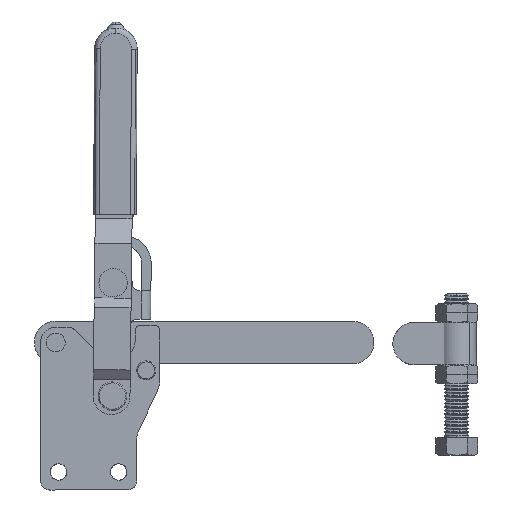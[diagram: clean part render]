
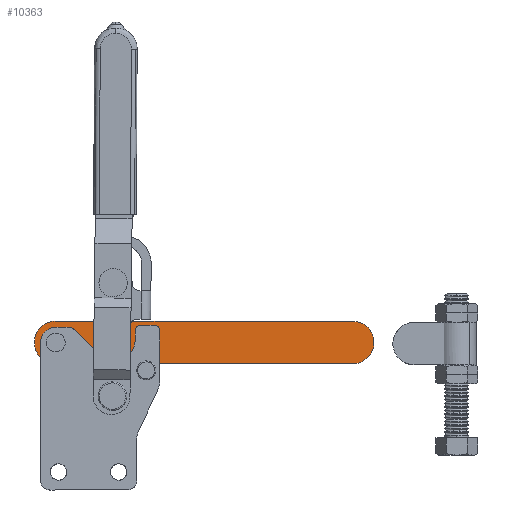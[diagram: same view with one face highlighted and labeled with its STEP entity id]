
A CAD part, left-side view. The second image highlights one B-rep face of the part: STEP entity #10363.
In plain terms, the highlighted free-form (B-spline) face has degree [1, 1] with [2, 2] control points.
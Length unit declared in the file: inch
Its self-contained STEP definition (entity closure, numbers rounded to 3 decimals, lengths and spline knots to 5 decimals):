
#4027=EDGE_CURVE('',#5243,#7851,#11529,.T.);
#4220=VERTEX_POINT('',#11742);
#5039=EDGE_CURVE('',#4220,#5820,#12625,.T.);
#5243=VERTEX_POINT('',#12848);
#5263=EDGE_CURVE('',#7772,#6252,#12872,.T.);
#5684=VERTEX_POINT('',#13333);
#5820=VERTEX_POINT('',#13477);
#6252=VERTEX_POINT('',#13944);
#6386=VERTEX_POINT('',#14087);
#6953=EDGE_CURVE('',#5820,#4220,#14697,.T.);
#7772=VERTEX_POINT('',#15595);
#7851=VERTEX_POINT('',#15682);
#7988=VERTEX_POINT('',#15826);
#8063=EDGE_CURVE('',#5684,#7772,#15906,.T.);
#8338=VERTEX_POINT('',#16198);
#8693=EDGE_CURVE('',#7851,#5243,#16586,.T.);
#8786=EDGE_CURVE('',#8338,#6386,#16682,.T.);
#9217=EDGE_CURVE('',#6252,#7988,#17153,.T.);
#10363=ADVANCED_FACE('',(#18396,#18397,#18398),#18399,.T.);
#10440=EDGE_CURVE('',#7988,#8338,#18486,.T.);
#10894=EDGE_CURVE('',#6386,#5684,#18986,.T.);
#11529=(B_SPLINE_CURVE(3,(#21167,#21168,#21169,#21170),.UNSPECIFIED.,.F.,.F.)B_SPLINE_CURVE_WITH_KNOTS((4,4),(-6.28319,-3.14159),.UNSPECIFIED.)RATIONAL_B_SPLINE_CURVE((1.0,0.333,0.333,1.0))BOUNDED_CURVE()REPRESENTATION_ITEM('')GEOMETRIC_REPRESENTATION_ITEM()CURVE());
#11742=CARTESIAN_POINT('',(-0.17717,-0.5512,2.31688));
#12625=(B_SPLINE_CURVE(3,(#27021,#27022,#27023,#27024),.UNSPECIFIED.,.F.,.F.)B_SPLINE_CURVE_WITH_KNOTS((4,4),(-3.14159,0.0),.UNSPECIFIED.)RATIONAL_B_SPLINE_CURVE((1.0,0.333,0.333,1.0))BOUNDED_CURVE()REPRESENTATION_ITEM('')GEOMETRIC_REPRESENTATION_ITEM()CURVE());
#12848=CARTESIAN_POINT('',(-0.17717,-1.25987,2.364));
#12872=(B_SPLINE_CURVE(3,(#28340,#28341,#28342,#28343),.UNSPECIFIED.,.F.,.F.)B_SPLINE_CURVE_WITH_KNOTS((4,4),(1.5708,3.14159),.UNSPECIFIED.)RATIONAL_B_SPLINE_CURVE((1.0,0.667,0.5,0.5))BOUNDED_CURVE()REPRESENTATION_ITEM('')GEOMETRIC_REPRESENTATION_ITEM()CURVE());
#13333=CARTESIAN_POINT('',(-0.17717,-6.49404,1.87297));
#13477=CARTESIAN_POINT('',(-0.17717,-0.07876,2.31696));
#13944=CARTESIAN_POINT('',(-0.17717,0.12794,2.31699));
#14087=CARTESIAN_POINT('',(-0.17717,-6.93702,2.3158));
#14697=(B_SPLINE_CURVE(3,(#36985,#36986,#36987,#36988),.UNSPECIFIED.,.F.,.F.)B_SPLINE_CURVE_WITH_KNOTS((4,4),(-6.28319,-3.14159),.UNSPECIFIED.)RATIONAL_B_SPLINE_CURVE((1.0,0.333,0.333,1.0))BOUNDED_CURVE()REPRESENTATION_ITEM('')GEOMETRIC_REPRESENTATION_ITEM()CURVE());
#15595=CARTESIAN_POINT('',(-0.17717,-0.3149,1.87401));
#15682=CARTESIAN_POINT('',(-0.17717,-1.73231,2.36392));
#15826=CARTESIAN_POINT('',(-0.17717,-0.31505,2.75983));
#15906=B_SPLINE_CURVE_WITH_KNOTS('',1,(#42428,#42429),.UNSPECIFIED.,.F.,.F.,(2,2),(-0.15695,0.0),.UNSPECIFIED.);
#16198=CARTESIAN_POINT('',(-0.17717,-6.49419,2.75879));
#16586=(B_SPLINE_CURVE(3,(#45403,#45404,#45405,#45406),.UNSPECIFIED.,.F.,.F.)B_SPLINE_CURVE_WITH_KNOTS((4,4),(-3.14159,0.0),.UNSPECIFIED.)RATIONAL_B_SPLINE_CURVE((1.0,0.333,0.333,1.0))BOUNDED_CURVE()REPRESENTATION_ITEM('')GEOMETRIC_REPRESENTATION_ITEM()CURVE());
#16682=(B_SPLINE_CURVE(3,(#45805,#45806,#45807,#45808),.UNSPECIFIED.,.F.,.F.)B_SPLINE_CURVE_WITH_KNOTS((4,4),(1.5708,3.14159),.UNSPECIFIED.)RATIONAL_B_SPLINE_CURVE((1.0,0.805,0.805,1.0))BOUNDED_CURVE()REPRESENTATION_ITEM('')GEOMETRIC_REPRESENTATION_ITEM()CURVE());
#17153=(B_SPLINE_CURVE(3,(#47662,#47663,#47664,#47665),.UNSPECIFIED.,.F.,.F.)B_SPLINE_CURVE_WITH_KNOTS((4,4),(3.14159,4.71239),.UNSPECIFIED.)RATIONAL_B_SPLINE_CURVE((0.5,0.5,0.667,1.0))BOUNDED_CURVE()REPRESENTATION_ITEM('')GEOMETRIC_REPRESENTATION_ITEM()CURVE());
#18396=FACE_OUTER_BOUND('',#52651,.T.);
#18397=FACE_BOUND('',#52652,.T.);
#18398=FACE_BOUND('',#52653,.T.);
#18399=B_SPLINE_SURFACE_WITH_KNOTS('',1,1,((#52654,#52655),(#52656,#52657)),.UNSPECIFIED.,.F.,.F.,.F.,(2,2),(2,2),(0.0,7.09797),(0.09829,0.98412),.UNSPECIFIED.);
#18486=B_SPLINE_CURVE_WITH_KNOTS('',1,(#52938,#52939),.UNSPECIFIED.,.F.,.F.,(2,2),(0.0,0.15695),.UNSPECIFIED.);
#18986=(B_SPLINE_CURVE(3,(#55592,#55593,#55594,#55595),.UNSPECIFIED.,.F.,.F.)B_SPLINE_CURVE_WITH_KNOTS((4,4),(3.14159,4.71239),.UNSPECIFIED.)RATIONAL_B_SPLINE_CURVE((1.0,0.805,0.805,1.0))BOUNDED_CURVE()REPRESENTATION_ITEM('')GEOMETRIC_REPRESENTATION_ITEM()CURVE());
#21167=CARTESIAN_POINT('',(-0.17717,-1.25987,2.364));
#21168=CARTESIAN_POINT('',(-0.17717,-1.25979,1.89156));
#21169=CARTESIAN_POINT('',(-0.17717,-1.73223,1.89148));
#21170=CARTESIAN_POINT('',(-0.17717,-1.73231,2.36392));
#27021=CARTESIAN_POINT('',(-0.17717,-0.5512,2.31688));
#27022=CARTESIAN_POINT('',(-0.17717,-0.55128,2.78932));
#27023=CARTESIAN_POINT('',(-0.17717,-0.07884,2.7894));
#27024=CARTESIAN_POINT('',(-0.17717,-0.07876,2.31696));
#28340=CARTESIAN_POINT('',(-0.17717,-0.3149,1.87401));
#28341=CARTESIAN_POINT('',(-0.17717,-0.09345,1.87404));
#28342=CARTESIAN_POINT('',(-0.17717,0.12799,2.02172));
#28343=CARTESIAN_POINT('',(-0.17717,0.12794,2.31699));
#36985=CARTESIAN_POINT('',(-0.17717,-0.07876,2.31696));
#36986=CARTESIAN_POINT('',(-0.17717,-0.07868,1.84452));
#36987=CARTESIAN_POINT('',(-0.17717,-0.55112,1.84444));
#36988=CARTESIAN_POINT('',(-0.17717,-0.5512,2.31688));
#42428=CARTESIAN_POINT('',(-0.17717,-6.49404,1.87297));
#42429=CARTESIAN_POINT('',(-0.17717,-0.3149,1.87401));
#45403=CARTESIAN_POINT('',(-0.17717,-1.73231,2.36392));
#45404=CARTESIAN_POINT('',(-0.17717,-1.73239,2.83637));
#45405=CARTESIAN_POINT('',(-0.17717,-1.25995,2.83645));
#45406=CARTESIAN_POINT('',(-0.17717,-1.25987,2.364));
#45805=CARTESIAN_POINT('',(-0.17717,-6.49419,2.75879));
#45806=CARTESIAN_POINT('',(-0.17717,-6.75364,2.75875));
#45807=CARTESIAN_POINT('',(-0.17717,-6.93707,2.57526));
#45808=CARTESIAN_POINT('',(-0.17717,-6.93702,2.3158));
#47662=CARTESIAN_POINT('',(-0.17717,0.12794,2.31699));
#47663=CARTESIAN_POINT('',(-0.17717,0.12789,2.61227));
#47664=CARTESIAN_POINT('',(-0.17717,-0.0936,2.75987));
#47665=CARTESIAN_POINT('',(-0.17717,-0.31505,2.75983));
#52651=EDGE_LOOP('',(#60339,#60340,#60341,#60342,#60343,#60344));
#52652=EDGE_LOOP('',(#60345,#60346));
#52653=EDGE_LOOP('',(#60347,#60348));
#52654=CARTESIAN_POINT('',(-0.17717,0.14465,1.87408));
#52655=CARTESIAN_POINT('',(-0.17717,0.1445,2.75991));
#52656=CARTESIAN_POINT('',(-0.17717,-6.95332,1.87289));
#52657=CARTESIAN_POINT('',(-0.17717,-6.95347,2.75871));
#52938=CARTESIAN_POINT('',(-0.17717,-0.31505,2.75983));
#52939=CARTESIAN_POINT('',(-0.17717,-6.49419,2.75879));
#55592=CARTESIAN_POINT('',(-0.17717,-6.93702,2.3158));
#55593=CARTESIAN_POINT('',(-0.17717,-6.93698,2.05635));
#55594=CARTESIAN_POINT('',(-0.17717,-6.75349,1.87292));
#55595=CARTESIAN_POINT('',(-0.17717,-6.49404,1.87297));
#60339=ORIENTED_EDGE('',*,*,#5263,.F.);
#60340=ORIENTED_EDGE('',*,*,#8063,.F.);
#60341=ORIENTED_EDGE('',*,*,#10894,.F.);
#60342=ORIENTED_EDGE('',*,*,#8786,.F.);
#60343=ORIENTED_EDGE('',*,*,#10440,.F.);
#60344=ORIENTED_EDGE('',*,*,#9217,.F.);
#60345=ORIENTED_EDGE('',*,*,#4027,.F.);
#60346=ORIENTED_EDGE('',*,*,#8693,.F.);
#60347=ORIENTED_EDGE('',*,*,#6953,.F.);
#60348=ORIENTED_EDGE('',*,*,#5039,.F.);
